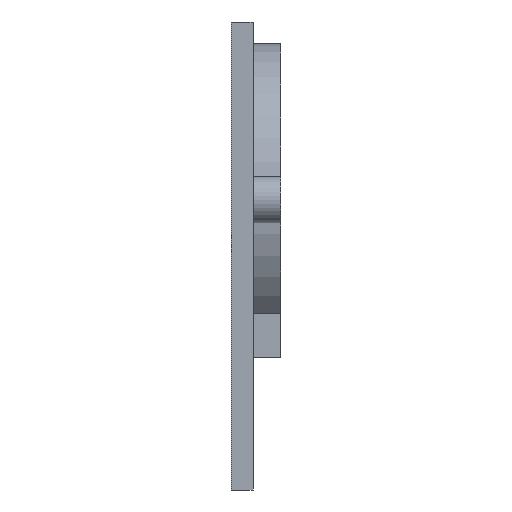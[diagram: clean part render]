
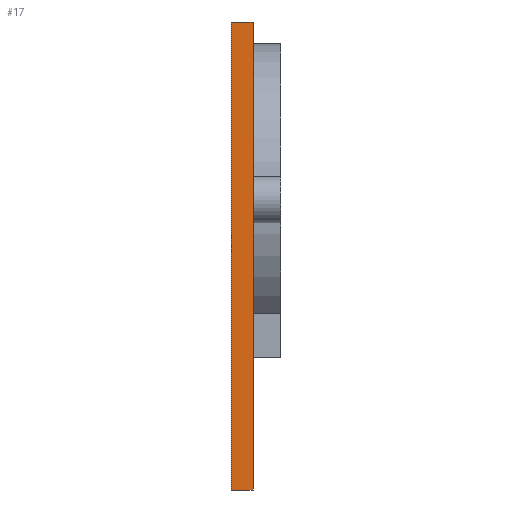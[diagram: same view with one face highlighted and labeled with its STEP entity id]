
A CAD part, left-side view. The second image highlights one B-rep face of the part: STEP entity #17.
In plain terms, the highlighted planar face has unit normal (-1, 0, 0).
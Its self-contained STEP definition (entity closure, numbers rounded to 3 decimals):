
#17 = ADVANCED_FACE('',(#18),#32,.F.);
#18 = FACE_BOUND('',#19,.F.);
#19 = EDGE_LOOP('',(#20,#55,#83,#111));
#20 = ORIENTED_EDGE('',*,*,#21,.F.);
#21 = EDGE_CURVE('',#22,#24,#26,.T.);
#22 = VERTEX_POINT('',#23);
#23 = CARTESIAN_POINT('',(-39.5,50.,-4.));
#24 = VERTEX_POINT('',#25);
#25 = CARTESIAN_POINT('',(-39.5,50.,60.5));
#26 = SURFACE_CURVE('',#27,(#31,#43),.PCURVE_S1.);
#27 = LINE('',#28,#29);
#28 = CARTESIAN_POINT('',(-39.5,50.,-4.));
#29 = VECTOR('',#30,1.);
#30 = DIRECTION('',(0.,0.,1.));
#31 = PCURVE('',#32,#37);
#32 = PLANE('',#33);
#33 = AXIS2_PLACEMENT_3D('',#34,#35,#36);
#34 = CARTESIAN_POINT('',(-39.5,50.,-4.));
#35 = DIRECTION('',(1.,0.,-0.));
#36 = DIRECTION('',(0.,0.,1.));
#37 = DEFINITIONAL_REPRESENTATION('',(#38),#42);
#38 = LINE('',#39,#40);
#39 = CARTESIAN_POINT('',(0.,0.));
#40 = VECTOR('',#41,1.);
#41 = DIRECTION('',(1.,0.));
#42 = ( GEOMETRIC_REPRESENTATION_CONTEXT(2) 
PARAMETRIC_REPRESENTATION_CONTEXT() REPRESENTATION_CONTEXT('2D SPACE',''
  ) );
#43 = PCURVE('',#44,#49);
#44 = PLANE('',#45);
#45 = AXIS2_PLACEMENT_3D('',#46,#47,#48);
#46 = CARTESIAN_POINT('',(-39.5,50.,-4.));
#47 = DIRECTION('',(-0.,1.,0.));
#48 = DIRECTION('',(0.,0.,1.));
#49 = DEFINITIONAL_REPRESENTATION('',(#50),#54);
#50 = LINE('',#51,#52);
#51 = CARTESIAN_POINT('',(0.,0.));
#52 = VECTOR('',#53,1.);
#53 = DIRECTION('',(1.,0.));
#54 = ( GEOMETRIC_REPRESENTATION_CONTEXT(2) 
PARAMETRIC_REPRESENTATION_CONTEXT() REPRESENTATION_CONTEXT('2D SPACE',''
  ) );
#55 = ORIENTED_EDGE('',*,*,#56,.T.);
#56 = EDGE_CURVE('',#22,#57,#59,.T.);
#57 = VERTEX_POINT('',#58);
#58 = CARTESIAN_POINT('',(-39.5,53.,-4.));
#59 = SURFACE_CURVE('',#60,(#64,#71),.PCURVE_S1.);
#60 = LINE('',#61,#62);
#61 = CARTESIAN_POINT('',(-39.5,50.,-4.));
#62 = VECTOR('',#63,1.);
#63 = DIRECTION('',(-0.,1.,0.));
#64 = PCURVE('',#32,#65);
#65 = DEFINITIONAL_REPRESENTATION('',(#66),#70);
#66 = LINE('',#67,#68);
#67 = CARTESIAN_POINT('',(0.,0.));
#68 = VECTOR('',#69,1.);
#69 = DIRECTION('',(0.,-1.));
#70 = ( GEOMETRIC_REPRESENTATION_CONTEXT(2) 
PARAMETRIC_REPRESENTATION_CONTEXT() REPRESENTATION_CONTEXT('2D SPACE',''
  ) );
#71 = PCURVE('',#72,#77);
#72 = PLANE('',#73);
#73 = AXIS2_PLACEMENT_3D('',#74,#75,#76);
#74 = CARTESIAN_POINT('',(-39.5,50.,-4.));
#75 = DIRECTION('',(0.,0.,1.));
#76 = DIRECTION('',(1.,0.,-0.));
#77 = DEFINITIONAL_REPRESENTATION('',(#78),#82);
#78 = LINE('',#79,#80);
#79 = CARTESIAN_POINT('',(0.,0.));
#80 = VECTOR('',#81,1.);
#81 = DIRECTION('',(0.,1.));
#82 = ( GEOMETRIC_REPRESENTATION_CONTEXT(2) 
PARAMETRIC_REPRESENTATION_CONTEXT() REPRESENTATION_CONTEXT('2D SPACE',''
  ) );
#83 = ORIENTED_EDGE('',*,*,#84,.T.);
#84 = EDGE_CURVE('',#57,#85,#87,.T.);
#85 = VERTEX_POINT('',#86);
#86 = CARTESIAN_POINT('',(-39.5,53.,60.5));
#87 = SURFACE_CURVE('',#88,(#92,#99),.PCURVE_S1.);
#88 = LINE('',#89,#90);
#89 = CARTESIAN_POINT('',(-39.5,53.,-4.));
#90 = VECTOR('',#91,1.);
#91 = DIRECTION('',(0.,0.,1.));
#92 = PCURVE('',#32,#93);
#93 = DEFINITIONAL_REPRESENTATION('',(#94),#98);
#94 = LINE('',#95,#96);
#95 = CARTESIAN_POINT('',(0.,-3.));
#96 = VECTOR('',#97,1.);
#97 = DIRECTION('',(1.,0.));
#98 = ( GEOMETRIC_REPRESENTATION_CONTEXT(2) 
PARAMETRIC_REPRESENTATION_CONTEXT() REPRESENTATION_CONTEXT('2D SPACE',''
  ) );
#99 = PCURVE('',#100,#105);
#100 = PLANE('',#101);
#101 = AXIS2_PLACEMENT_3D('',#102,#103,#104);
#102 = CARTESIAN_POINT('',(-39.5,53.,-4.));
#103 = DIRECTION('',(-0.,1.,0.));
#104 = DIRECTION('',(0.,0.,1.));
#105 = DEFINITIONAL_REPRESENTATION('',(#106),#110);
#106 = LINE('',#107,#108);
#107 = CARTESIAN_POINT('',(0.,0.));
#108 = VECTOR('',#109,1.);
#109 = DIRECTION('',(1.,0.));
#110 = ( GEOMETRIC_REPRESENTATION_CONTEXT(2) 
PARAMETRIC_REPRESENTATION_CONTEXT() REPRESENTATION_CONTEXT('2D SPACE',''
  ) );
#111 = ORIENTED_EDGE('',*,*,#112,.F.);
#112 = EDGE_CURVE('',#24,#85,#113,.T.);
#113 = SURFACE_CURVE('',#114,(#118,#125),.PCURVE_S1.);
#114 = LINE('',#115,#116);
#115 = CARTESIAN_POINT('',(-39.5,50.,60.5));
#116 = VECTOR('',#117,1.);
#117 = DIRECTION('',(-0.,1.,0.));
#118 = PCURVE('',#32,#119);
#119 = DEFINITIONAL_REPRESENTATION('',(#120),#124);
#120 = LINE('',#121,#122);
#121 = CARTESIAN_POINT('',(64.5,0.));
#122 = VECTOR('',#123,1.);
#123 = DIRECTION('',(0.,-1.));
#124 = ( GEOMETRIC_REPRESENTATION_CONTEXT(2) 
PARAMETRIC_REPRESENTATION_CONTEXT() REPRESENTATION_CONTEXT('2D SPACE',''
  ) );
#125 = PCURVE('',#126,#131);
#126 = PLANE('',#127);
#127 = AXIS2_PLACEMENT_3D('',#128,#129,#130);
#128 = CARTESIAN_POINT('',(-39.5,50.,60.5));
#129 = DIRECTION('',(0.,0.,1.));
#130 = DIRECTION('',(1.,0.,-0.));
#131 = DEFINITIONAL_REPRESENTATION('',(#132),#136);
#132 = LINE('',#133,#134);
#133 = CARTESIAN_POINT('',(0.,0.));
#134 = VECTOR('',#135,1.);
#135 = DIRECTION('',(0.,1.));
#136 = ( GEOMETRIC_REPRESENTATION_CONTEXT(2) 
PARAMETRIC_REPRESENTATION_CONTEXT() REPRESENTATION_CONTEXT('2D SPACE',''
  ) );
